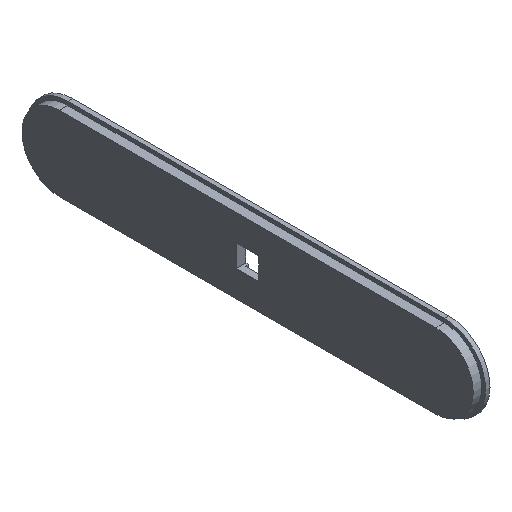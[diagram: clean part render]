
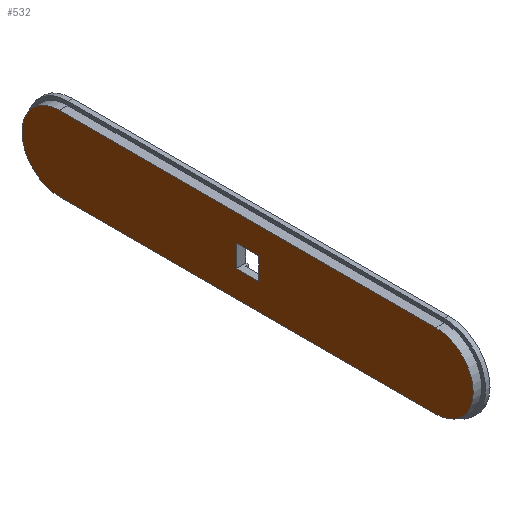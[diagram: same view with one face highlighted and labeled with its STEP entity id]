
A CAD part, isometric view. The second image highlights one B-rep face of the part: STEP entity #532.
In plain terms, the highlighted planar face has unit normal (-1, 0, 0).
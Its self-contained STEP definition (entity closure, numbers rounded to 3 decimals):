
#22 = VERTEX_POINT('',#23);
#23 = CARTESIAN_POINT('',(-39.3,-29.,20.15));
#32 = PLANE('',#33);
#33 = AXIS2_PLACEMENT_3D('',#34,#35,#36);
#34 = CARTESIAN_POINT('',(-38.45,-29.,20.15));
#35 = DIRECTION('',(0.,0.,1.));
#36 = DIRECTION('',(0.,1.,0.));
#44 = CYLINDRICAL_SURFACE('',#45,5.9);
#45 = AXIS2_PLACEMENT_3D('',#46,#47,#48);
#46 = CARTESIAN_POINT('',(-38.45,-29.,14.25));
#47 = DIRECTION('',(-1.,0.,0.));
#48 = DIRECTION('',(0.,0.,-1.));
#85 = VERTEX_POINT('',#86);
#86 = CARTESIAN_POINT('',(-39.3,30.4,20.15));
#100 = CYLINDRICAL_SURFACE('',#101,5.9);
#101 = AXIS2_PLACEMENT_3D('',#102,#103,#104);
#102 = CARTESIAN_POINT('',(-38.45,30.4,14.25));
#103 = DIRECTION('',(-1.,0.,0.));
#104 = DIRECTION('',(0.,0.,1.));
#112 = EDGE_CURVE('',#22,#85,#113,.T.);
#113 = SURFACE_CURVE('',#114,(#118,#125),.PCURVE_S1.);
#114 = LINE('',#115,#116);
#115 = CARTESIAN_POINT('',(-39.3,-29.,20.15));
#116 = VECTOR('',#117,1.);
#117 = DIRECTION('',(0.,1.,0.));
#118 = PCURVE('',#32,#119);
#119 = DEFINITIONAL_REPRESENTATION('',(#120),#124);
#120 = LINE('',#121,#122);
#121 = CARTESIAN_POINT('',(0.,0.85));
#122 = VECTOR('',#123,1.);
#123 = DIRECTION('',(1.,0.));
#124 = ( GEOMETRIC_REPRESENTATION_CONTEXT(2) 
PARAMETRIC_REPRESENTATION_CONTEXT() REPRESENTATION_CONTEXT('2D SPACE',''
  ) );
#125 = PCURVE('',#126,#131);
#126 = PLANE('',#127);
#127 = AXIS2_PLACEMENT_3D('',#128,#129,#130);
#128 = CARTESIAN_POINT('',(-39.3,0.7,14.25));
#129 = DIRECTION('',(-1.,-0.,-0.));
#130 = DIRECTION('',(0.,0.,-1.));
#131 = DEFINITIONAL_REPRESENTATION('',(#132),#136);
#132 = LINE('',#133,#134);
#133 = CARTESIAN_POINT('',(-5.9,29.7));
#134 = VECTOR('',#135,1.);
#135 = DIRECTION('',(0.,-1.));
#136 = ( GEOMETRIC_REPRESENTATION_CONTEXT(2) 
PARAMETRIC_REPRESENTATION_CONTEXT() REPRESENTATION_CONTEXT('2D SPACE',''
  ) );
#142 = VERTEX_POINT('',#143);
#143 = CARTESIAN_POINT('',(-39.3,-29.,8.35));
#159 = PLANE('',#160);
#160 = AXIS2_PLACEMENT_3D('',#161,#162,#163);
#161 = CARTESIAN_POINT('',(-38.45,30.4,8.35));
#162 = DIRECTION('',(0.,0.,-1.));
#163 = DIRECTION('',(0.,-1.,0.));
#194 = EDGE_CURVE('',#142,#22,#195,.T.);
#195 = SURFACE_CURVE('',#196,(#201,#208),.PCURVE_S1.);
#196 = CIRCLE('',#197,5.9);
#197 = AXIS2_PLACEMENT_3D('',#198,#199,#200);
#198 = CARTESIAN_POINT('',(-39.3,-29.,14.25));
#199 = DIRECTION('',(-1.,0.,0.));
#200 = DIRECTION('',(0.,0.,-1.));
#201 = PCURVE('',#44,#202);
#202 = DEFINITIONAL_REPRESENTATION('',(#203),#207);
#203 = LINE('',#204,#205);
#204 = CARTESIAN_POINT('',(-0.,0.85));
#205 = VECTOR('',#206,1.);
#206 = DIRECTION('',(1.,-0.));
#207 = ( GEOMETRIC_REPRESENTATION_CONTEXT(2) 
PARAMETRIC_REPRESENTATION_CONTEXT() REPRESENTATION_CONTEXT('2D SPACE',''
  ) );
#208 = PCURVE('',#126,#209);
#209 = DEFINITIONAL_REPRESENTATION('',(#210),#214);
#210 = CIRCLE('',#211,5.9);
#211 = AXIS2_PLACEMENT_2D('',#212,#213);
#212 = CARTESIAN_POINT('',(0.,29.7));
#213 = DIRECTION('',(1.,0.));
#214 = ( GEOMETRIC_REPRESENTATION_CONTEXT(2) 
PARAMETRIC_REPRESENTATION_CONTEXT() REPRESENTATION_CONTEXT('2D SPACE',''
  ) );
#489 = VERTEX_POINT('',#490);
#490 = CARTESIAN_POINT('',(-39.3,30.4,8.35));
#511 = EDGE_CURVE('',#85,#489,#512,.T.);
#512 = SURFACE_CURVE('',#513,(#518,#525),.PCURVE_S1.);
#513 = CIRCLE('',#514,5.9);
#514 = AXIS2_PLACEMENT_3D('',#515,#516,#517);
#515 = CARTESIAN_POINT('',(-39.3,30.4,14.25));
#516 = DIRECTION('',(-1.,0.,0.));
#517 = DIRECTION('',(0.,0.,1.));
#518 = PCURVE('',#100,#519);
#519 = DEFINITIONAL_REPRESENTATION('',(#520),#524);
#520 = LINE('',#521,#522);
#521 = CARTESIAN_POINT('',(-0.,0.85));
#522 = VECTOR('',#523,1.);
#523 = DIRECTION('',(1.,-0.));
#524 = ( GEOMETRIC_REPRESENTATION_CONTEXT(2) 
PARAMETRIC_REPRESENTATION_CONTEXT() REPRESENTATION_CONTEXT('2D SPACE',''
  ) );
#525 = PCURVE('',#126,#526);
#526 = DEFINITIONAL_REPRESENTATION('',(#527),#531);
#527 = CIRCLE('',#528,5.9);
#528 = AXIS2_PLACEMENT_2D('',#529,#530);
#529 = CARTESIAN_POINT('',(0.,-29.7));
#530 = DIRECTION('',(-1.,0.));
#531 = ( GEOMETRIC_REPRESENTATION_CONTEXT(2) 
PARAMETRIC_REPRESENTATION_CONTEXT() REPRESENTATION_CONTEXT('2D SPACE',''
  ) );
#532 = ADVANCED_FACE('',(#533,#559),#126,.T.);
#533 = FACE_BOUND('',#534,.T.);
#534 = EDGE_LOOP('',(#535,#536,#537,#558));
#535 = ORIENTED_EDGE('',*,*,#112,.T.);
#536 = ORIENTED_EDGE('',*,*,#511,.T.);
#537 = ORIENTED_EDGE('',*,*,#538,.T.);
#538 = EDGE_CURVE('',#489,#142,#539,.T.);
#539 = SURFACE_CURVE('',#540,(#544,#551),.PCURVE_S1.);
#540 = LINE('',#541,#542);
#541 = CARTESIAN_POINT('',(-39.3,30.4,8.35));
#542 = VECTOR('',#543,1.);
#543 = DIRECTION('',(0.,-1.,0.));
#544 = PCURVE('',#126,#545);
#545 = DEFINITIONAL_REPRESENTATION('',(#546),#550);
#546 = LINE('',#547,#548);
#547 = CARTESIAN_POINT('',(5.9,-29.7));
#548 = VECTOR('',#549,1.);
#549 = DIRECTION('',(0.,1.));
#550 = ( GEOMETRIC_REPRESENTATION_CONTEXT(2) 
PARAMETRIC_REPRESENTATION_CONTEXT() REPRESENTATION_CONTEXT('2D SPACE',''
  ) );
#551 = PCURVE('',#159,#552);
#552 = DEFINITIONAL_REPRESENTATION('',(#553),#557);
#553 = LINE('',#554,#555);
#554 = CARTESIAN_POINT('',(0.,0.85));
#555 = VECTOR('',#556,1.);
#556 = DIRECTION('',(1.,0.));
#557 = ( GEOMETRIC_REPRESENTATION_CONTEXT(2) 
PARAMETRIC_REPRESENTATION_CONTEXT() REPRESENTATION_CONTEXT('2D SPACE',''
  ) );
#558 = ORIENTED_EDGE('',*,*,#194,.T.);
#559 = FACE_BOUND('',#560,.T.);
#560 = EDGE_LOOP('',(#561,#589,#615,#641));
#561 = ORIENTED_EDGE('',*,*,#562,.F.);
#562 = EDGE_CURVE('',#563,#565,#567,.T.);
#563 = VERTEX_POINT('',#564);
#564 = CARTESIAN_POINT('',(-39.3,-1.05,12.5));
#565 = VERTEX_POINT('',#566);
#566 = CARTESIAN_POINT('',(-39.3,-1.05,16.));
#567 = SURFACE_CURVE('',#568,(#572,#578),.PCURVE_S1.);
#568 = LINE('',#569,#570);
#569 = CARTESIAN_POINT('',(-39.3,-1.05,13.375));
#570 = VECTOR('',#571,1.);
#571 = DIRECTION('',(-0.,0.,1.));
#572 = PCURVE('',#126,#573);
#573 = DEFINITIONAL_REPRESENTATION('',(#574),#577);
#574 = B_SPLINE_CURVE_WITH_KNOTS('',1,(#575,#576),.UNSPECIFIED.,.F.,.F.,
  (2,2),(-0.875,2.625),.PIECEWISE_BEZIER_KNOTS.);
#575 = CARTESIAN_POINT('',(1.75,1.75));
#576 = CARTESIAN_POINT('',(-1.75,1.75));
#577 = ( GEOMETRIC_REPRESENTATION_CONTEXT(2) 
PARAMETRIC_REPRESENTATION_CONTEXT() REPRESENTATION_CONTEXT('2D SPACE',''
  ) );
#578 = PCURVE('',#579,#584);
#579 = PLANE('',#580);
#580 = AXIS2_PLACEMENT_3D('',#581,#582,#583);
#581 = CARTESIAN_POINT('',(-37.06,-1.05,12.5));
#582 = DIRECTION('',(0.,-1.,0.));
#583 = DIRECTION('',(0.,0.,1.));
#584 = DEFINITIONAL_REPRESENTATION('',(#585),#588);
#585 = B_SPLINE_CURVE_WITH_KNOTS('',1,(#586,#587),.UNSPECIFIED.,.F.,.F.,
  (2,2),(-0.875,2.625),.PIECEWISE_BEZIER_KNOTS.);
#586 = CARTESIAN_POINT('',(0.,2.24));
#587 = CARTESIAN_POINT('',(3.5,2.24));
#588 = ( GEOMETRIC_REPRESENTATION_CONTEXT(2) 
PARAMETRIC_REPRESENTATION_CONTEXT() REPRESENTATION_CONTEXT('2D SPACE',''
  ) );
#589 = ORIENTED_EDGE('',*,*,#590,.T.);
#590 = EDGE_CURVE('',#563,#591,#593,.T.);
#591 = VERTEX_POINT('',#592);
#592 = CARTESIAN_POINT('',(-39.3,2.45,12.5));
#593 = SURFACE_CURVE('',#594,(#598,#604),.PCURVE_S1.);
#594 = LINE('',#595,#596);
#595 = CARTESIAN_POINT('',(-39.3,1.575,12.5));
#596 = VECTOR('',#597,1.);
#597 = DIRECTION('',(0.,1.,0.));
#598 = PCURVE('',#126,#599);
#599 = DEFINITIONAL_REPRESENTATION('',(#600),#603);
#600 = B_SPLINE_CURVE_WITH_KNOTS('',1,(#601,#602),.UNSPECIFIED.,.F.,.F.,
  (2,2),(-2.625,0.875),.PIECEWISE_BEZIER_KNOTS.);
#601 = CARTESIAN_POINT('',(1.75,1.75));
#602 = CARTESIAN_POINT('',(1.75,-1.75));
#603 = ( GEOMETRIC_REPRESENTATION_CONTEXT(2) 
PARAMETRIC_REPRESENTATION_CONTEXT() REPRESENTATION_CONTEXT('2D SPACE',''
  ) );
#604 = PCURVE('',#605,#610);
#605 = PLANE('',#606);
#606 = AXIS2_PLACEMENT_3D('',#607,#608,#609);
#607 = CARTESIAN_POINT('',(-37.06,2.45,12.5));
#608 = DIRECTION('',(0.,0.,1.));
#609 = DIRECTION('',(-1.,0.,0.));
#610 = DEFINITIONAL_REPRESENTATION('',(#611),#614);
#611 = B_SPLINE_CURVE_WITH_KNOTS('',1,(#612,#613),.UNSPECIFIED.,.F.,.F.,
  (2,2),(-2.625,0.875),.PIECEWISE_BEZIER_KNOTS.);
#612 = CARTESIAN_POINT('',(2.24,3.5));
#613 = CARTESIAN_POINT('',(2.24,0.));
#614 = ( GEOMETRIC_REPRESENTATION_CONTEXT(2) 
PARAMETRIC_REPRESENTATION_CONTEXT() REPRESENTATION_CONTEXT('2D SPACE',''
  ) );
#615 = ORIENTED_EDGE('',*,*,#616,.T.);
#616 = EDGE_CURVE('',#591,#617,#619,.T.);
#617 = VERTEX_POINT('',#618);
#618 = CARTESIAN_POINT('',(-39.3,2.45,16.));
#619 = SURFACE_CURVE('',#620,(#624,#630),.PCURVE_S1.);
#620 = LINE('',#621,#622);
#621 = CARTESIAN_POINT('',(-39.3,2.45,13.375));
#622 = VECTOR('',#623,1.);
#623 = DIRECTION('',(-0.,0.,1.));
#624 = PCURVE('',#126,#625);
#625 = DEFINITIONAL_REPRESENTATION('',(#626),#629);
#626 = B_SPLINE_CURVE_WITH_KNOTS('',1,(#627,#628),.UNSPECIFIED.,.F.,.F.,
  (2,2),(-0.875,2.625),.PIECEWISE_BEZIER_KNOTS.);
#627 = CARTESIAN_POINT('',(1.75,-1.75));
#628 = CARTESIAN_POINT('',(-1.75,-1.75));
#629 = ( GEOMETRIC_REPRESENTATION_CONTEXT(2) 
PARAMETRIC_REPRESENTATION_CONTEXT() REPRESENTATION_CONTEXT('2D SPACE',''
  ) );
#630 = PCURVE('',#631,#636);
#631 = PLANE('',#632);
#632 = AXIS2_PLACEMENT_3D('',#633,#634,#635);
#633 = CARTESIAN_POINT('',(-37.06,2.45,12.5));
#634 = DIRECTION('',(0.,-1.,0.));
#635 = DIRECTION('',(0.,0.,1.));
#636 = DEFINITIONAL_REPRESENTATION('',(#637),#640);
#637 = B_SPLINE_CURVE_WITH_KNOTS('',1,(#638,#639),.UNSPECIFIED.,.F.,.F.,
  (2,2),(-0.875,2.625),.PIECEWISE_BEZIER_KNOTS.);
#638 = CARTESIAN_POINT('',(0.,2.24));
#639 = CARTESIAN_POINT('',(3.5,2.24));
#640 = ( GEOMETRIC_REPRESENTATION_CONTEXT(2) 
PARAMETRIC_REPRESENTATION_CONTEXT() REPRESENTATION_CONTEXT('2D SPACE',''
  ) );
#641 = ORIENTED_EDGE('',*,*,#642,.F.);
#642 = EDGE_CURVE('',#565,#617,#643,.T.);
#643 = SURFACE_CURVE('',#644,(#648,#654),.PCURVE_S1.);
#644 = LINE('',#645,#646);
#645 = CARTESIAN_POINT('',(-39.3,1.575,16.));
#646 = VECTOR('',#647,1.);
#647 = DIRECTION('',(0.,1.,0.));
#648 = PCURVE('',#126,#649);
#649 = DEFINITIONAL_REPRESENTATION('',(#650),#653);
#650 = B_SPLINE_CURVE_WITH_KNOTS('',1,(#651,#652),.UNSPECIFIED.,.F.,.F.,
  (2,2),(-2.625,0.875),.PIECEWISE_BEZIER_KNOTS.);
#651 = CARTESIAN_POINT('',(-1.75,1.75));
#652 = CARTESIAN_POINT('',(-1.75,-1.75));
#653 = ( GEOMETRIC_REPRESENTATION_CONTEXT(2) 
PARAMETRIC_REPRESENTATION_CONTEXT() REPRESENTATION_CONTEXT('2D SPACE',''
  ) );
#654 = PCURVE('',#655,#660);
#655 = PLANE('',#656);
#656 = AXIS2_PLACEMENT_3D('',#657,#658,#659);
#657 = CARTESIAN_POINT('',(-37.06,2.45,16.));
#658 = DIRECTION('',(0.,0.,1.));
#659 = DIRECTION('',(-1.,0.,0.));
#660 = DEFINITIONAL_REPRESENTATION('',(#661),#664);
#661 = B_SPLINE_CURVE_WITH_KNOTS('',1,(#662,#663),.UNSPECIFIED.,.F.,.F.,
  (2,2),(-2.625,0.875),.PIECEWISE_BEZIER_KNOTS.);
#662 = CARTESIAN_POINT('',(2.24,3.5));
#663 = CARTESIAN_POINT('',(2.24,0.));
#664 = ( GEOMETRIC_REPRESENTATION_CONTEXT(2) 
PARAMETRIC_REPRESENTATION_CONTEXT() REPRESENTATION_CONTEXT('2D SPACE',''
  ) );
